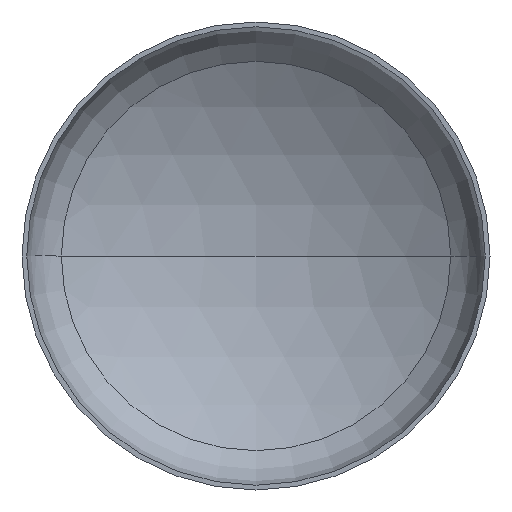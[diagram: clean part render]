
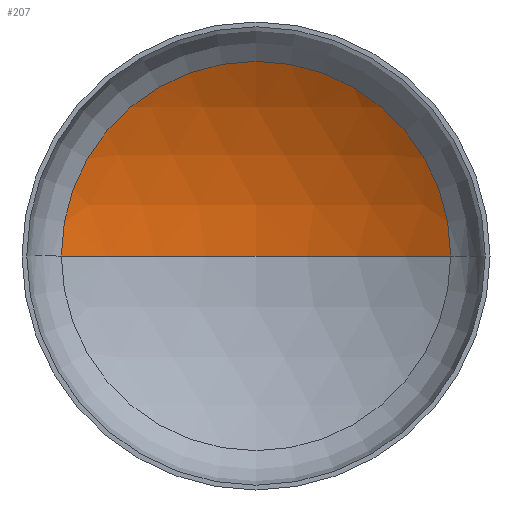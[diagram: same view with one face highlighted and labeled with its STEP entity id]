
A CAD part, front view. The second image highlights one B-rep face of the part: STEP entity #207.
In plain terms, the highlighted spherical face has radius 3200 mm.
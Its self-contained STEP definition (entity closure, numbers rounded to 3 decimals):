
#1 = AXIS2_PLACEMENT_3D ( 'NONE', #149, #148, #147 ) ;
#26 = AXIS2_PLACEMENT_3D ( 'NONE', #206, #204, #211 ) ;
#34 = EDGE_LOOP ( 'NONE', ( #107, #111, #71 ) ) ;
#35 = AXIS2_PLACEMENT_3D ( 'NONE', #321, #332, #326 ) ;
#46 = VERTEX_POINT ( 'NONE', #288 ) ;
#53 = VERTEX_POINT ( 'NONE', #374 ) ;
#61 = VERTEX_POINT ( 'NONE', #226 ) ;
#71 = ORIENTED_EDGE ( 'NONE', *, *, #330, .T. ) ;
#72 = AXIS2_PLACEMENT_3D ( 'NONE', #271, #233, #389 ) ;
#107 = ORIENTED_EDGE ( 'NONE', *, *, #387, .F. ) ;
#111 = ORIENTED_EDGE ( 'NONE', *, *, #336, .T. ) ;
#147 = DIRECTION ( 'NONE',  ( 1., 0., 0. ) ) ;
#148 = DIRECTION ( 'NONE',  ( 0., 0., 1. ) ) ;
#149 = CARTESIAN_POINT ( 'NONE',  ( 0., -2078.142, 0. ) ) ;
#204 = DIRECTION ( 'NONE',  ( 0., 0., -1. ) ) ;
#206 = CARTESIAN_POINT ( 'NONE',  ( 0., -2078.142, 0. ) ) ;
#207 = ADVANCED_FACE ( 'NONE', ( #372 ), #378, .F. ) ;
#210 = CIRCLE ( 'NONE', #1, 3200. ) ;
#211 = DIRECTION ( 'NONE',  ( -1., 0., 0. ) ) ;
#226 = CARTESIAN_POINT ( 'NONE',  ( -1663.752, 655.341, 0. ) ) ;
#233 = DIRECTION ( 'NONE',  ( 0., 0., -1. ) ) ;
#271 = CARTESIAN_POINT ( 'NONE',  ( 0., -2078.142, 0. ) ) ;
#285 = CIRCLE ( 'NONE', #35, 1663.752 ) ;
#288 = CARTESIAN_POINT ( 'NONE',  ( 1663.752, 655.341, 0. ) ) ;
#321 = CARTESIAN_POINT ( 'NONE',  ( 0., 655.341, 0. ) ) ;
#326 = DIRECTION ( 'NONE',  ( 1., 0., 0. ) ) ;
#330 = EDGE_CURVE ( 'NONE', #46, #61, #285, .T. ) ;
#332 = DIRECTION ( 'NONE',  ( 0., -1., 0. ) ) ;
#336 = EDGE_CURVE ( 'NONE', #53, #46, #406, .T. ) ;
#372 = FACE_OUTER_BOUND ( 'NONE', #34, .T. ) ;
#374 = CARTESIAN_POINT ( 'NONE',  ( 0., 1121.858, 0. ) ) ;
#378 = SPHERICAL_SURFACE ( 'NONE', #72, 3200. ) ;
#387 = EDGE_CURVE ( 'NONE', #53, #61, #210, .T. ) ;
#389 = DIRECTION ( 'NONE',  ( -1., 0., 0. ) ) ;
#406 = CIRCLE ( 'NONE', #26, 3200. ) ;
